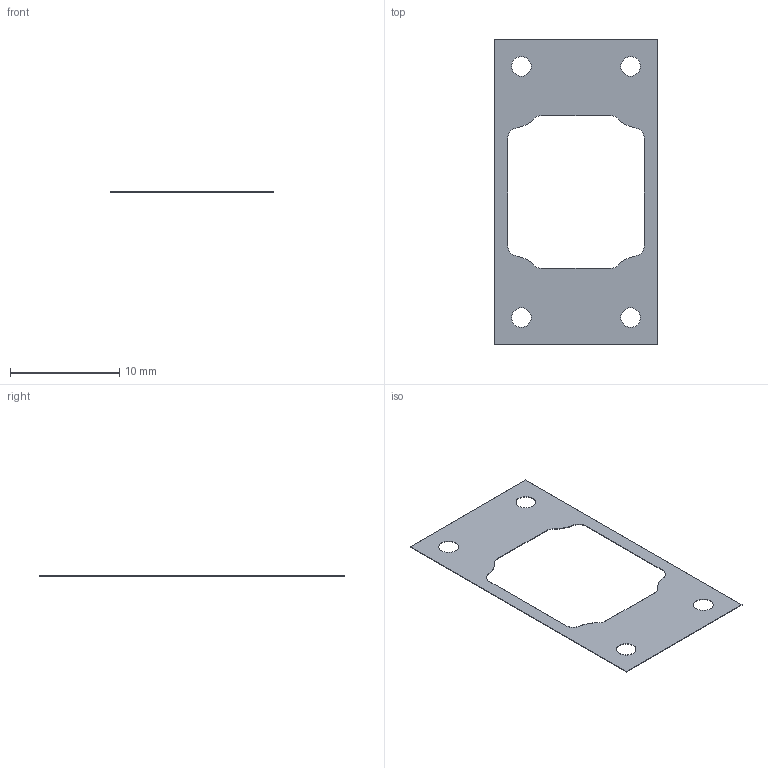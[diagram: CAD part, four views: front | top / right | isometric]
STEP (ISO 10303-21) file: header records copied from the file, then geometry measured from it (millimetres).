
FILE_DESCRIPTION(/* description */ ('(C) Elphel, Inc. 2013. Licensed under CERN OHL v.1.1 or later, see http://ohwr.org/cernohl'),/* implementation_level */ '2;1');
FILE_NAME(/* name */ '0353-30-20A.stp',/* time_stamp */ '2013-04-04T20:31:12-06:00',/* author */ (''),/* organization */ ('Elphel, Inc'),/* preprocessor_version */ 'ST-DEVELOPER v14',/* originating_system */ 'VariCAD 2013-1.03; kernel version (20121105)',/* authorisation */ '');
FILE_SCHEMA (('CONFIG_CONTROL_DESIGN'));
Length unit declared in the file: millimetre
Products named in the file (2): 0353-30-20A; 0353-30-20
Assembly tree (1 placements, depth 2):
  0353-30-20A
    0353-30-20
Bounding box: 15 x 28 x 0.05 mm (x, y, z)
Volume: 12.2 mm3; surface area: 497.4 mm2
Topology: 1 solids, 1 shells, 30 faces, 84 edges, 56 vertices
Faces by surface type: cylinder 20, plane 10
Entity records: 1108 total; most frequent: DIRECTION 192, CARTESIAN_POINT 174, ORIENTED_EDGE 168, EDGE_CURVE 84, AXIS2_PLACEMENT_3D 74, VERTEX_POINT 56, LINE 44, VECTOR 44
